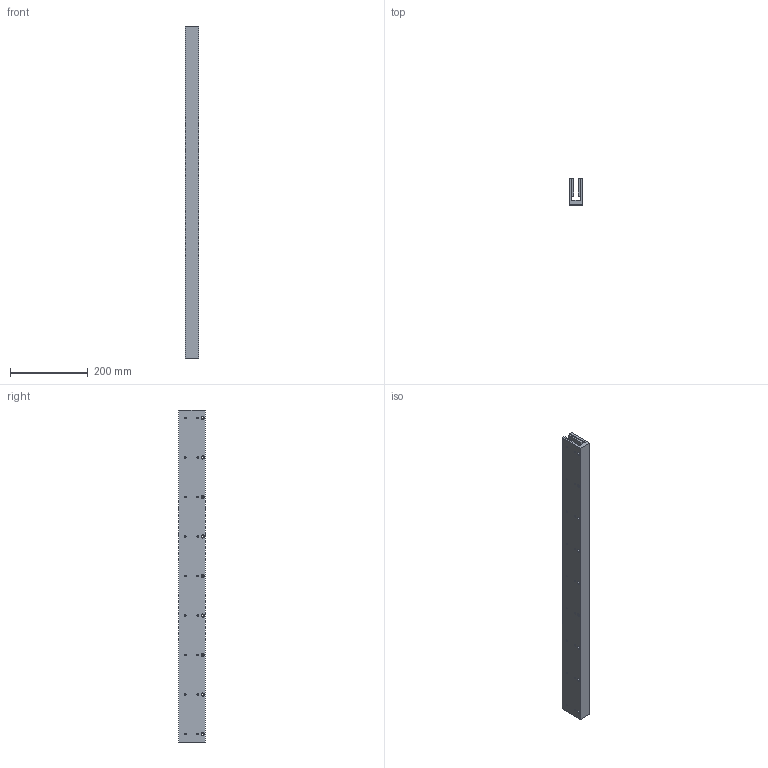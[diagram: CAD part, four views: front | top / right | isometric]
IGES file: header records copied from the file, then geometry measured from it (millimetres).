
Global section: file name: No Iges File Name specified; native system: Autodesk Inventor 2009; preprocessor: AutoDesk Inventor Iges Exporter R2009; author: je17857; date: 20091116.111535; units: inch
Bounding box: 34.29 x 67.31 x 853.44 mm (x, y, z)
Volume: 1275130.5 mm3; surface area: 322255.4 mm2
Topology: 1 solids, 1 shells, 446 faces, 1074 edges, 716 vertices
Faces by surface type: plane 302, bspline 144
